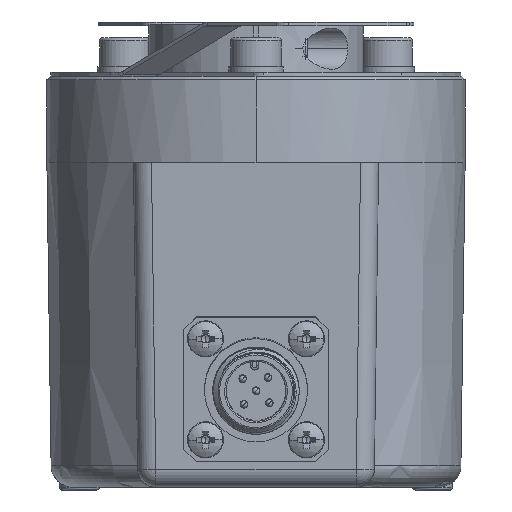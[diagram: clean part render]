
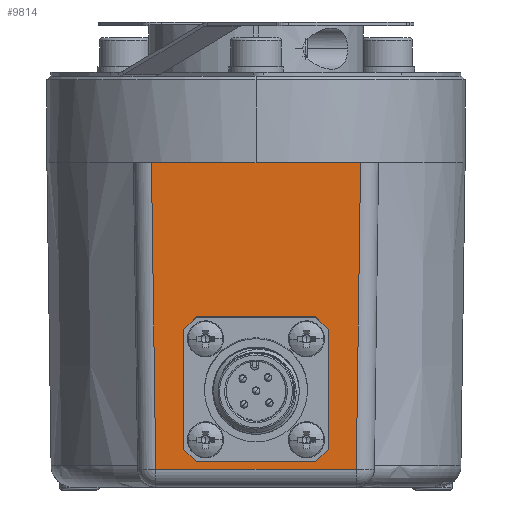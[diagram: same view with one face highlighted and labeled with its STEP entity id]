
A CAD part, front view. The second image highlights one B-rep face of the part: STEP entity #9814.
In plain terms, the highlighted planar face has unit normal (0, -1, -0.014).
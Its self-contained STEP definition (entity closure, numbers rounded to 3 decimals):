
#17 = VERTEX_POINT ( 'NONE', #26695 ) ;
#316 = DIRECTION ( 'NONE',  ( 1., 0., 0. ) ) ;
#410 = LINE ( 'NONE', #9590, #23595 ) ;
#935 = EDGE_CURVE ( 'NONE', #14264, #18156, #6953, .T. ) ;
#1263 = LINE ( 'NONE', #1713, #16562 ) ;
#1713 = CARTESIAN_POINT ( 'NONE',  ( -10., -28.677, 21.902 ) ) ;
#1833 = CARTESIAN_POINT ( 'NONE',  ( -8.3, -28.422, 3.604 ) ) ;
#2084 = ORIENTED_EDGE ( 'NONE', *, *, #14817, .T. ) ;
#2118 = CARTESIAN_POINT ( 'NONE',  ( 17., -29., 45. ) ) ;
#2705 = CARTESIAN_POINT ( 'NONE',  ( 10., -28.446, 5.303 ) ) ;
#3251 = DIRECTION ( 'NONE',  ( 0.707, 0.01, -0.707 ) ) ;
#4351 = FACE_BOUND ( 'NONE', #13522, .T. ) ;
#4622 = ORIENTED_EDGE ( 'NONE', *, *, #935, .T. ) ;
#4921 = CARTESIAN_POINT ( 'NONE',  ( 17., -29., 45. ) ) ;
#5070 = DIRECTION ( 'NONE',  ( -1., 0., 0. ) ) ;
#5328 = CARTESIAN_POINT ( 'NONE',  ( 10., -28.677, 21.902 ) ) ;
#5496 = VERTEX_POINT ( 'NONE', #15812 ) ;
#5610 = DIRECTION ( 'NONE',  ( 0., -0.014, 1. ) ) ;
#6022 = LINE ( 'NONE', #2705, #28223 ) ;
#6104 = CARTESIAN_POINT ( 'NONE',  ( -13.906, -28.406, 2.465 ) ) ;
#6136 = ORIENTED_EDGE ( 'NONE', *, *, #22695, .T. ) ;
#6197 = LINE ( 'NONE', #20190, #6782 ) ;
#6370 = VERTEX_POINT ( 'NONE', #11658 ) ;
#6782 = VECTOR ( 'NONE', #29685, 1000. ) ;
#6953 = LINE ( 'NONE', #20927, #13721 ) ;
#7029 = LINE ( 'NONE', #16205, #19812 ) ;
#7216 = DIRECTION ( 'NONE',  ( -0.707, 0.01, -0.707 ) ) ;
#7784 = ORIENTED_EDGE ( 'NONE', *, *, #29344, .T. ) ;
#7872 = CARTESIAN_POINT ( 'NONE',  ( -10., -28.446, 5.303 ) ) ;
#7906 = CARTESIAN_POINT ( 'NONE',  ( 0., -29., 45. ) ) ;
#8184 = ORIENTED_EDGE ( 'NONE', *, *, #26774, .T. ) ;
#8843 = VERTEX_POINT ( 'NONE', #5328 ) ;
#9165 = DIRECTION ( 'NONE',  ( 0., -0.014, 1. ) ) ;
#9582 = EDGE_CURVE ( 'NONE', #16265, #12070, #14592, .T. ) ;
#9590 = CARTESIAN_POINT ( 'NONE',  ( 8.3, -28.701, 23.602 ) ) ;
#9814 = ADVANCED_FACE ( 'NONE', ( #4351, #13526 ), #25560, .T. ) ;
#10024 = CARTESIAN_POINT ( 'NONE',  ( -8.3, -28.701, 23.602 ) ) ;
#10235 = ORIENTED_EDGE ( 'NONE', *, *, #27278, .T. ) ;
#10414 = EDGE_CURVE ( 'NONE', #17, #14646, #21840, .T. ) ;
#10440 = DIRECTION ( 'NONE',  ( 0.707, -0.01, 0.707 ) ) ;
#10518 = EDGE_CURVE ( 'NONE', #28843, #22757, #6197, .T. ) ;
#10642 = ORIENTED_EDGE ( 'NONE', *, *, #11914, .F. ) ;
#11174 = DIRECTION ( 'NONE',  ( 0.014, -0.014, 1. ) ) ;
#11658 = CARTESIAN_POINT ( 'NONE',  ( 10., -28.446, 5.303 ) ) ;
#11914 = EDGE_CURVE ( 'NONE', #6370, #8843, #14496, .T. ) ;
#12070 = VERTEX_POINT ( 'NONE', #12843 ) ;
#12337 = CARTESIAN_POINT ( 'NONE',  ( 17., -29., 45. ) ) ;
#12354 = ORIENTED_EDGE ( 'NONE', *, *, #27740, .F. ) ;
#12583 = EDGE_CURVE ( 'NONE', #5496, #16265, #16250, .T. ) ;
#12843 = CARTESIAN_POINT ( 'NONE',  ( 14.5, -29., 45. ) ) ;
#12979 = VECTOR ( 'NONE', #23930, 1000. ) ;
#12981 = LINE ( 'NONE', #22157, #20761 ) ;
#13257 = VECTOR ( 'NONE', #3251, 1000. ) ;
#13271 = LINE ( 'NONE', #1833, #16426 ) ;
#13394 = VERTEX_POINT ( 'NONE', #10024 ) ;
#13522 = EDGE_LOOP ( 'NONE', ( #12354, #6136, #10642, #14003, #23521, #10235, #27504, #8184 ) ) ;
#13526 = FACE_OUTER_BOUND ( 'NONE', #16414, .T. ) ;
#13721 = VECTOR ( 'NONE', #316, 1000. ) ;
#14003 = ORIENTED_EDGE ( 'NONE', *, *, #18582, .T. ) ;
#14264 = VERTEX_POINT ( 'NONE', #6104 ) ;
#14496 = LINE ( 'NONE', #14653, #20354 ) ;
#14592 = LINE ( 'NONE', #12337, #12979 ) ;
#14646 = VERTEX_POINT ( 'NONE', #26538 ) ;
#14653 = CARTESIAN_POINT ( 'NONE',  ( 10., -28.446, 5.303 ) ) ;
#14817 = EDGE_CURVE ( 'NONE', #5496, #14264, #7029, .T. ) ;
#15812 = CARTESIAN_POINT ( 'NONE',  ( -14.5, -29., 45. ) ) ;
#15902 = DIRECTION ( 'NONE',  ( 0.014, 0.014, -1. ) ) ;
#16205 = CARTESIAN_POINT ( 'NONE',  ( -14.494, -28.994, 44.56 ) ) ;
#16250 = LINE ( 'NONE', #2118, #21347 ) ;
#16265 = VERTEX_POINT ( 'NONE', #7906 ) ;
#16414 = EDGE_LOOP ( 'NONE', ( #28713, #2084, #4622, #7784, #23004 ) ) ;
#16426 = VECTOR ( 'NONE', #19575, 1000. ) ;
#16562 = VECTOR ( 'NONE', #10440, 1000. ) ;
#16676 = CARTESIAN_POINT ( 'NONE',  ( 8.3, -28.701, 23.602 ) ) ;
#17311 = CARTESIAN_POINT ( 'NONE',  ( -8.3, -28.422, 3.604 ) ) ;
#17314 = VECTOR ( 'NONE', #28770, 1000. ) ;
#17360 = LINE ( 'NONE', #23876, #13257 ) ;
#18156 = VERTEX_POINT ( 'NONE', #28155 ) ;
#18497 = DIRECTION ( 'NONE',  ( 1., 0., 0. ) ) ;
#18582 = EDGE_CURVE ( 'NONE', #6370, #14646, #6022, .T. ) ;
#18747 = AXIS2_PLACEMENT_3D ( 'NONE', #4921, #20735, #9165 ) ;
#19575 = DIRECTION ( 'NONE',  ( -0.707, -0.01, 0.707 ) ) ;
#19812 = VECTOR ( 'NONE', #15902, 1000. ) ;
#20190 = CARTESIAN_POINT ( 'NONE',  ( -10., -28.677, 21.902 ) ) ;
#20354 = VECTOR ( 'NONE', #5610, 1000. ) ;
#20735 = DIRECTION ( 'NONE',  ( 0., -1., -0.014 ) ) ;
#20761 = VECTOR ( 'NONE', #11174, 1000. ) ;
#20857 = CARTESIAN_POINT ( 'NONE',  ( -10., -28.677, 21.902 ) ) ;
#20927 = CARTESIAN_POINT ( 'NONE',  ( 17., -28.406, 2.465 ) ) ;
#21347 = VECTOR ( 'NONE', #18497, 1000. ) ;
#21771 = VERTEX_POINT ( 'NONE', #16676 ) ;
#21840 = LINE ( 'NONE', #17311, #17314 ) ;
#22157 = CARTESIAN_POINT ( 'NONE',  ( 14.501, -29., 45.035 ) ) ;
#22695 = EDGE_CURVE ( 'NONE', #21771, #8843, #17360, .T. ) ;
#22757 = VERTEX_POINT ( 'NONE', #7872 ) ;
#23004 = ORIENTED_EDGE ( 'NONE', *, *, #9582, .F. ) ;
#23521 = ORIENTED_EDGE ( 'NONE', *, *, #10414, .F. ) ;
#23595 = VECTOR ( 'NONE', #5070, 1000. ) ;
#23876 = CARTESIAN_POINT ( 'NONE',  ( 8.3, -28.701, 23.602 ) ) ;
#23930 = DIRECTION ( 'NONE',  ( 1., 0., 0. ) ) ;
#25560 = PLANE ( 'NONE',  #18747 ) ;
#26538 = CARTESIAN_POINT ( 'NONE',  ( 8.3, -28.422, 3.604 ) ) ;
#26695 = CARTESIAN_POINT ( 'NONE',  ( -8.3, -28.422, 3.604 ) ) ;
#26774 = EDGE_CURVE ( 'NONE', #28843, #13394, #1263, .T. ) ;
#27278 = EDGE_CURVE ( 'NONE', #17, #22757, #13271, .T. ) ;
#27504 = ORIENTED_EDGE ( 'NONE', *, *, #10518, .F. ) ;
#27740 = EDGE_CURVE ( 'NONE', #21771, #13394, #410, .T. ) ;
#28155 = CARTESIAN_POINT ( 'NONE',  ( 13.906, -28.406, 2.465 ) ) ;
#28223 = VECTOR ( 'NONE', #7216, 1000. ) ;
#28713 = ORIENTED_EDGE ( 'NONE', *, *, #12583, .F. ) ;
#28770 = DIRECTION ( 'NONE',  ( 1., 0., 0. ) ) ;
#28843 = VERTEX_POINT ( 'NONE', #20857 ) ;
#29344 = EDGE_CURVE ( 'NONE', #18156, #12070, #12981, .T. ) ;
#29685 = DIRECTION ( 'NONE',  ( 0., 0.014, -1. ) ) ;
